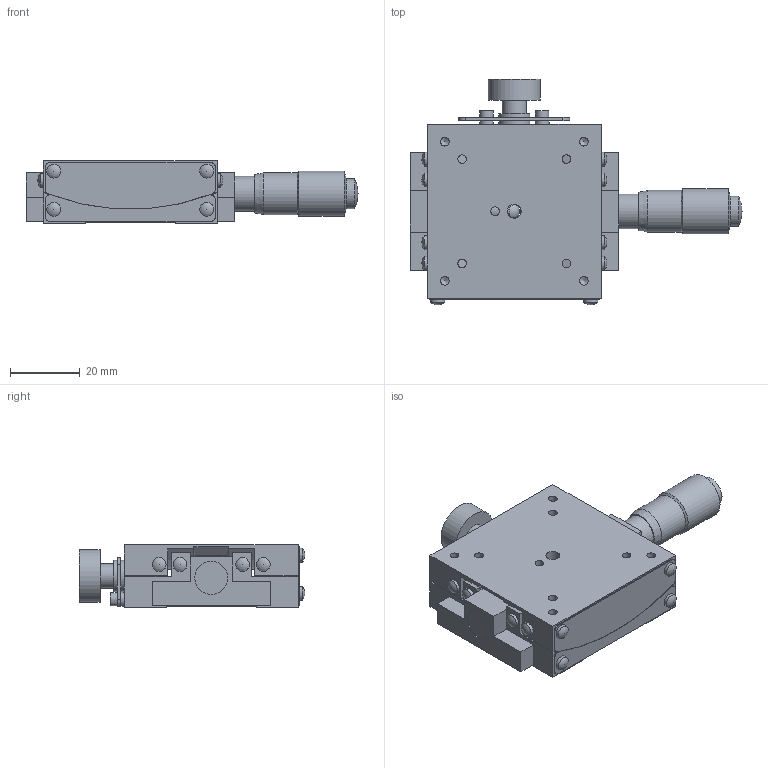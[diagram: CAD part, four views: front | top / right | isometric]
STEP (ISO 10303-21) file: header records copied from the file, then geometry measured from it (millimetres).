
FILE_DESCRIPTION( ( 'STEP AP214' ), '1' );
FILE_NAME( '//Srg14/OST事業部/技術G/各個人用/藤本/現在製作中の簡易形状+070424/3D_B58-50UA+070424/3D_B58-50UA+070424.step', '2007-04-30T02:30:55', ( ' ' ), ( ' ' ), 'XStep 1.0', ' ', ' ' );
FILE_SCHEMA( ( 'automotive_design' ) );
Length unit declared in the file: millimetre
Products named in the file (4): 1; 2; 3; 4
Bounding box: 95.5 x 64.9 x 18 mm (x, y, z)
Volume: 46465.8 mm3; surface area: 25408.7 mm2
Topology: 4 solids, 6 shells, 249 faces, 626 edges, 407 vertices
Faces by surface type: plane 118, cylinder 106, sphere 15, cone 10
Full cylindrical faces by diameter (mm): 2.5 x13, 3.5 x4, 3.8 x3, 4 x17, 5 x3, 6 x6, 6.5 x1, 7 x1, 8 x1, 8.6 x1, 9 x3, 9.5 x2, 10 x3, 10.5 x1, 11 x1, 12 x1, 13 x1, 15 x1
Entity records: 9268 total; most frequent: CARTESIAN_POINT 1690, DIRECTION 1193, ORIENTED_EDGE 984, EDGE_CURVE 492, AXIS2_PLACEMENT_3D 469, EDGE_LOOP 379, VERTEX_POINT 366, FACE_OUTER_BOUND 312
